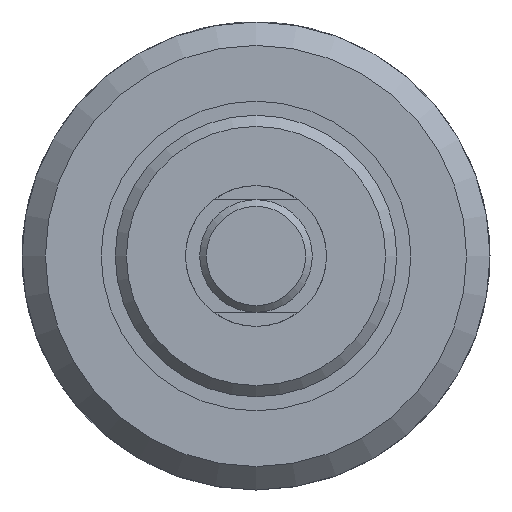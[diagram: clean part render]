
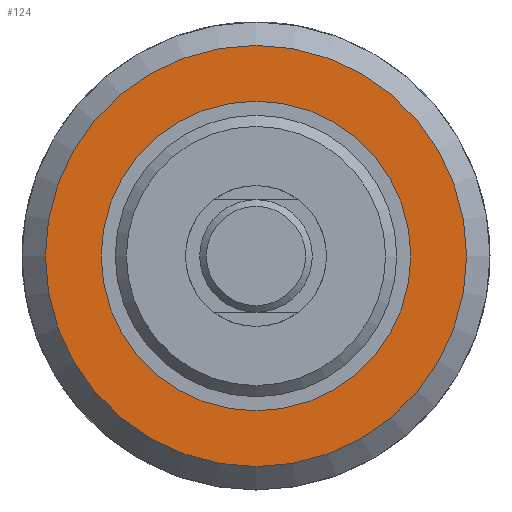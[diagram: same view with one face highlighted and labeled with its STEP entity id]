
A CAD part, left-side view. The second image highlights one B-rep face of the part: STEP entity #124.
In plain terms, the highlighted planar face has unit normal (-1, 0, 0).
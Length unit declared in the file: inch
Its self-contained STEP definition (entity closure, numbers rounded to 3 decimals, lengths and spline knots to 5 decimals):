
#124 = ADVANCED_FACE( '', ( #263, #264 ), #265, .F. );
#263 = FACE_OUTER_BOUND( '', #457, .T. );
#264 = FACE_BOUND( '', #458, .T. );
#265 = PLANE( '', #459 );
#457 = EDGE_LOOP( '', ( #652 ) );
#458 = EDGE_LOOP( '', ( #653 ) );
#459 = AXIS2_PLACEMENT_3D( '', #654, #655, #656 );
#652 = ORIENTED_EDGE( '', *, *, #960, .F. );
#653 = ORIENTED_EDGE( '', *, *, #961, .T. );
#654 = CARTESIAN_POINT( '', ( 0.813, 0.6875, 0. ) );
#655 = DIRECTION( '', ( 1., 0., 0. ) );
#656 = DIRECTION( '', ( 0., 0., -1. ) );
#960 = EDGE_CURVE( '', #1083, #1083, #1084, .T. );
#961 = EDGE_CURVE( '', #1085, #1085, #1086, .T. );
#1083 = VERTEX_POINT( '', #1255 );
#1084 = CIRCLE( '', #1256, 0.9351 );
#1085 = VERTEX_POINT( '', #1257 );
#1086 = CIRCLE( '', #1258, 0.6875 );
#1255 = CARTESIAN_POINT( '', ( 0.813, 0., -0.9351 ) );
#1256 = AXIS2_PLACEMENT_3D( '', #1531, #1532, #1533 );
#1257 = CARTESIAN_POINT( '', ( 0.813, 0., -0.6875 ) );
#1258 = AXIS2_PLACEMENT_3D( '', #1534, #1535, #1536 );
#1531 = CARTESIAN_POINT( '', ( 0.813, 0., 0. ) );
#1532 = DIRECTION( '', ( 1., 0., 0. ) );
#1533 = DIRECTION( '', ( 0., 0., -1. ) );
#1534 = CARTESIAN_POINT( '', ( 0.813, 0., 0. ) );
#1535 = DIRECTION( '', ( 1., 0., 0. ) );
#1536 = DIRECTION( '', ( 0., 0., -1. ) );
